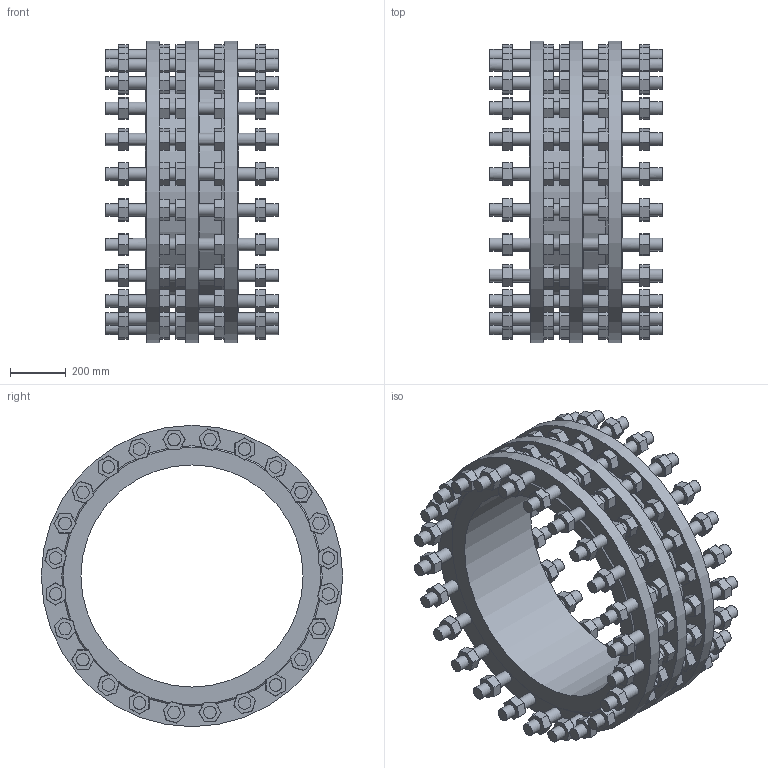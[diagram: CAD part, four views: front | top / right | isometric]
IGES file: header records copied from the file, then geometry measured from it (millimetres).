
Start section: SolidWorks IGES file using analytic representation for surfaces
Global section: file name: X:\AR\CV\873\873-0800-00-741000\873080000741000.IGS; native system: SolidWorks 2020; preprocessor: SolidWorks 2020; author: m.lucatello; date: 211105.110803; units: millimetre
Bounding box: 620 x 1085 x 1085 mm (x, y, z)
Surface area: 7823543.5 mm2 (no closed solid volume)
Topology: 0 solids, 0 shells, 2683 faces, 11302 edges, 11076 vertices
Faces by surface type: bspline 2457, revolution 226
